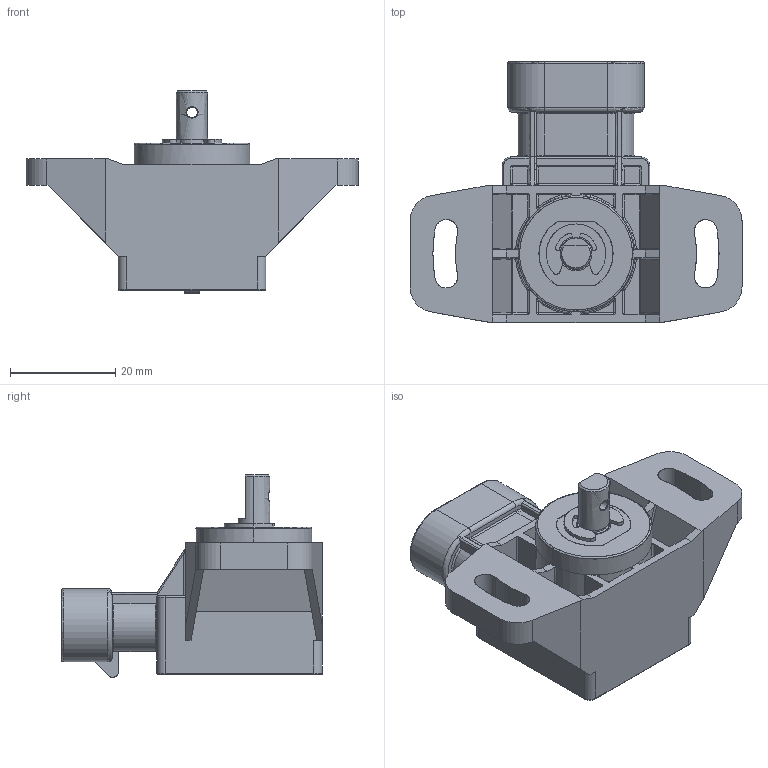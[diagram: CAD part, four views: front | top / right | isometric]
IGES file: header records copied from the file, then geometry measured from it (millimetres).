
Start section: SolidWorks IGES file using analytic representation for surfaces
Global section: file name: \\srv4gefran\dir-cat\Disegni Catalogo\Mobile\GR3P\GR3P 50\3D\Solidworks 2024\GR3PA S5E1HS xxx xxxx X0.IGS; native system: SolidWorks 2024; preprocessor: SolidWorks 2024; author: Loda-w1; date: 241219.161258; units: millimetre
Bounding box: 63 x 49.5 x 38.47 mm (x, y, z)
Surface area: 12831.1 mm2 (no closed solid volume)
Topology: 0 solids, 0 shells, 536 faces, 4622 edges, 4582 vertices
Faces by surface type: bspline 295, revolution 241
